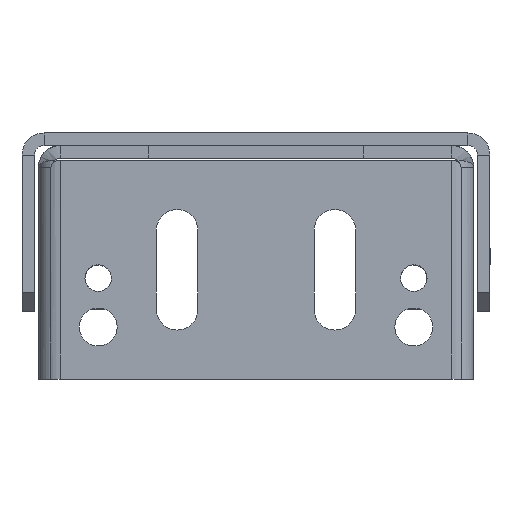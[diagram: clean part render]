
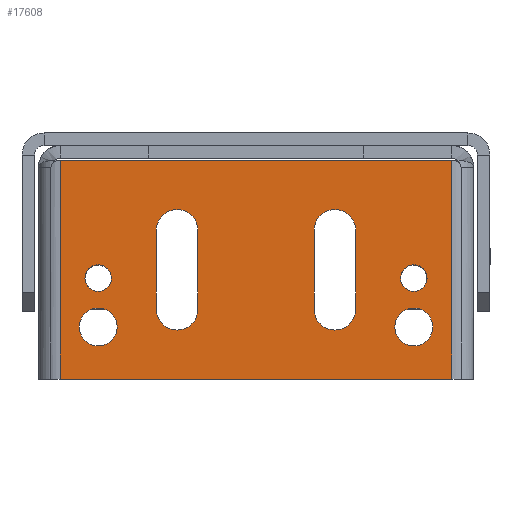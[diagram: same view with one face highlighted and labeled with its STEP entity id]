
A CAD part, left-side view. The second image highlights one B-rep face of the part: STEP entity #17608.
In plain terms, the highlighted planar face has unit normal (-1, 0, 0) as drawn and (0, 0, 1) by its records, which use the part's own axes.
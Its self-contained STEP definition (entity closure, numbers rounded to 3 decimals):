
#17608=ADVANCED_FACE('',(#33726,#33728,#33730,#33732,#33734,#33736,#33738),#33740,
.F.);
#33726=FACE_BOUND('',#33727,.T.);
#33727=EDGE_LOOP('',(#45349,#45350,#45351,#45352));
#33728=FACE_BOUND('',#33729,.T.);
#33729=EDGE_LOOP('',(#45353,#45354,#45355,#45356));
#33730=FACE_BOUND('',#33731,.T.);
#33731=EDGE_LOOP('',(#45357,#45358,#45359,#45360));
#33732=FACE_BOUND('',#33733,.T.);
#33733=EDGE_LOOP('',(#45361));
#33734=FACE_BOUND('',#33735,.T.);
#33735=EDGE_LOOP('',(#45362));
#33736=FACE_BOUND('',#33737,.T.);
#33737=EDGE_LOOP('',(#45363));
#33738=FACE_BOUND('',#33739,.T.);
#33739=EDGE_LOOP('',(#45364));
#33740=PLANE('',#33741);
#33741=AXIS2_PLACEMENT_3D('',#33742,#33743,#33744);
#33742=CARTESIAN_POINT('',(18.5,34.5,0.));
#33743=DIRECTION('',(0.,0.,-1.));
#33744=DIRECTION('',(-1.,0.,0.));
#45349=ORIENTED_EDGE('',*,*,#51081,.F.);
#45350=ORIENTED_EDGE('',*,*,#51082,.T.);
#45351=ORIENTED_EDGE('',*,*,#51083,.T.);
#45352=ORIENTED_EDGE('',*,*,#51084,.F.);
#45353=ORIENTED_EDGE('',*,*,#51085,.F.);
#45354=ORIENTED_EDGE('',*,*,#51086,.F.);
#45355=ORIENTED_EDGE('',*,*,#51087,.F.);
#45356=ORIENTED_EDGE('',*,*,#50986,.F.);
#45357=ORIENTED_EDGE('',*,*,#51088,.F.);
#45358=ORIENTED_EDGE('',*,*,#51089,.F.);
#45359=ORIENTED_EDGE('',*,*,#51090,.F.);
#45360=ORIENTED_EDGE('',*,*,#50990,.F.);
#45361=ORIENTED_EDGE('',*,*,#51025,.F.);
#45362=ORIENTED_EDGE('',*,*,#51027,.F.);
#45363=ORIENTED_EDGE('',*,*,#51029,.F.);
#45364=ORIENTED_EDGE('',*,*,#51031,.F.);
#50986=EDGE_CURVE('',#60394,#60396,#60397,.T.);
#50990=EDGE_CURVE('',#60402,#60404,#60405,.T.);
#51025=EDGE_CURVE('',#60469,#60469,#60470,.T.);
#51027=EDGE_CURVE('',#60473,#60473,#60474,.T.);
#51029=EDGE_CURVE('',#60477,#60477,#60478,.T.);
#51031=EDGE_CURVE('',#60481,#60481,#60482,.T.);
#51081=EDGE_CURVE('',#60571,#60572,#60573,.T.);
#51082=EDGE_CURVE('',#60571,#60574,#60575,.T.);
#51083=EDGE_CURVE('',#60574,#60576,#60577,.T.);
#51084=EDGE_CURVE('',#60572,#60576,#60578,.T.);
#51085=EDGE_CURVE('',#60579,#60394,#60580,.T.);
#51086=EDGE_CURVE('',#60581,#60579,#60582,.T.);
#51087=EDGE_CURVE('',#60396,#60581,#60583,.T.);
#51088=EDGE_CURVE('',#60584,#60402,#60585,.T.);
#51089=EDGE_CURVE('',#60586,#60584,#60587,.T.);
#51090=EDGE_CURVE('',#60404,#60586,#60588,.T.);
#60394=VERTEX_POINT('',#82946);
#60396=VERTEX_POINT('',#82950);
#60397=CIRCLE('',#82951,3.3);
#60402=VERTEX_POINT('',#82964);
#60404=VERTEX_POINT('',#82968);
#60405=CIRCLE('',#82969,3.3);
#60469=VERTEX_POINT('',#83133);
#60470=CIRCLE('',#83134,2.1);
#60473=VERTEX_POINT('',#83143);
#60474=CIRCLE('',#83144,3.);
#60477=VERTEX_POINT('',#83153);
#60478=CIRCLE('',#83154,2.1);
#60481=VERTEX_POINT('',#83163);
#60482=CIRCLE('',#83164,3.);
#60571=VERTEX_POINT('',#83357);
#60572=VERTEX_POINT('',#83358);
#60573=LINE('',#83359,#83360);
#60574=VERTEX_POINT('',#83362);
#60575=LINE('',#83363,#83364);
#60576=VERTEX_POINT('',#83366);
#60577=LINE('',#83367,#83368);
#60578=LINE('',#83370,#83371);
#60579=VERTEX_POINT('',#83373);
#60580=LINE('',#83374,#83375);
#60581=VERTEX_POINT('',#83377);
#60582=CIRCLE('',#83378,3.3);
#60583=LINE('',#83382,#83383);
#60584=VERTEX_POINT('',#83385);
#60585=LINE('',#83386,#83387);
#60586=VERTEX_POINT('',#83389);
#60587=CIRCLE('',#83390,3.3);
#60588=LINE('',#83394,#83395);
#82946=CARTESIAN_POINT('',(5.073,-15.8,0.));
#82950=CARTESIAN_POINT('',(5.073,-9.2,0.));
#82951=AXIS2_PLACEMENT_3D('',#82952,#82953,#82954);
#82952=CARTESIAN_POINT('',(5.073,-12.5,0.));
#82953=DIRECTION('',(0.,0.,1.));
#82954=DIRECTION('',(0.,-1.,0.));
#82964=CARTESIAN_POINT('',(5.073,9.2,0.));
#82968=CARTESIAN_POINT('',(5.073,15.8,0.));
#82969=AXIS2_PLACEMENT_3D('',#82970,#82971,#82972);
#82970=CARTESIAN_POINT('',(5.073,12.5,0.));
#82971=DIRECTION('',(0.,0.,1.));
#82972=DIRECTION('',(0.,-1.,0.));
#83133=CARTESIAN_POINT('',(-0.4,-25.,0.));
#83134=AXIS2_PLACEMENT_3D('',#83135,#83136,#83137);
#83135=CARTESIAN_POINT('',(-2.5,-25.,0.));
#83136=DIRECTION('',(0.,0.,1.));
#83137=DIRECTION('',(-1.,0.,0.));
#83143=CARTESIAN_POINT('',(-7.25,-25.,0.));
#83144=AXIS2_PLACEMENT_3D('',#83145,#83146,#83147);
#83145=CARTESIAN_POINT('',(-10.25,-25.,0.));
#83146=DIRECTION('',(0.,0.,1.));
#83147=DIRECTION('',(-1.,0.,0.));
#83153=CARTESIAN_POINT('',(-0.4,25.,0.));
#83154=AXIS2_PLACEMENT_3D('',#83155,#83156,#83157);
#83155=CARTESIAN_POINT('',(-2.5,25.,0.));
#83156=DIRECTION('',(0.,0.,1.));
#83157=DIRECTION('',(-1.,0.,0.));
#83163=CARTESIAN_POINT('',(-7.25,25.,0.));
#83164=AXIS2_PLACEMENT_3D('',#83165,#83166,#83167);
#83165=CARTESIAN_POINT('',(-10.25,25.,0.));
#83166=DIRECTION('',(0.,0.,1.));
#83167=DIRECTION('',(-1.,0.,0.));
#83357=CARTESIAN_POINT('',(16.146,31.,0.));
#83358=CARTESIAN_POINT('',(16.146,-31.,0.));
#83359=CARTESIAN_POINT('',(16.146,31.,0.));
#83360=VECTOR('',#83361,1.);
#83361=DIRECTION('',(0.,-1.,0.));
#83362=CARTESIAN_POINT('',(-18.5,31.,0.));
#83363=CARTESIAN_POINT('',(16.146,31.,0.));
#83364=VECTOR('',#83365,1.);
#83365=DIRECTION('',(-1.,0.,0.));
#83366=CARTESIAN_POINT('',(-18.5,-31.,0.));
#83367=CARTESIAN_POINT('',(-18.5,31.,0.));
#83368=VECTOR('',#83369,1.);
#83369=DIRECTION('',(0.,-1.,0.));
#83370=CARTESIAN_POINT('',(16.146,-31.,0.));
#83371=VECTOR('',#83372,1.);
#83372=DIRECTION('',(-1.,0.,0.));
#83373=CARTESIAN_POINT('',(-7.427,-15.8,0.));
#83374=CARTESIAN_POINT('',(-7.427,-15.8,0.));
#83375=VECTOR('',#83376,1.);
#83376=DIRECTION('',(1.,0.,0.));
#83377=CARTESIAN_POINT('',(-7.427,-9.2,0.));
#83378=AXIS2_PLACEMENT_3D('',#83379,#83380,#83381);
#83379=CARTESIAN_POINT('',(-7.427,-12.5,0.));
#83380=DIRECTION('',(0.,0.,1.));
#83381=DIRECTION('',(0.,1.,0.));
#83382=CARTESIAN_POINT('',(5.073,-9.2,0.));
#83383=VECTOR('',#83384,1.);
#83384=DIRECTION('',(-1.,0.,0.));
#83385=CARTESIAN_POINT('',(-7.427,9.2,0.));
#83386=CARTESIAN_POINT('',(-7.427,9.2,0.));
#83387=VECTOR('',#83388,1.);
#83388=DIRECTION('',(1.,0.,0.));
#83389=CARTESIAN_POINT('',(-7.427,15.8,0.));
#83390=AXIS2_PLACEMENT_3D('',#83391,#83392,#83393);
#83391=CARTESIAN_POINT('',(-7.427,12.5,0.));
#83392=DIRECTION('',(0.,0.,1.));
#83393=DIRECTION('',(0.,1.,0.));
#83394=CARTESIAN_POINT('',(5.073,15.8,0.));
#83395=VECTOR('',#83396,1.);
#83396=DIRECTION('',(-1.,0.,0.));
